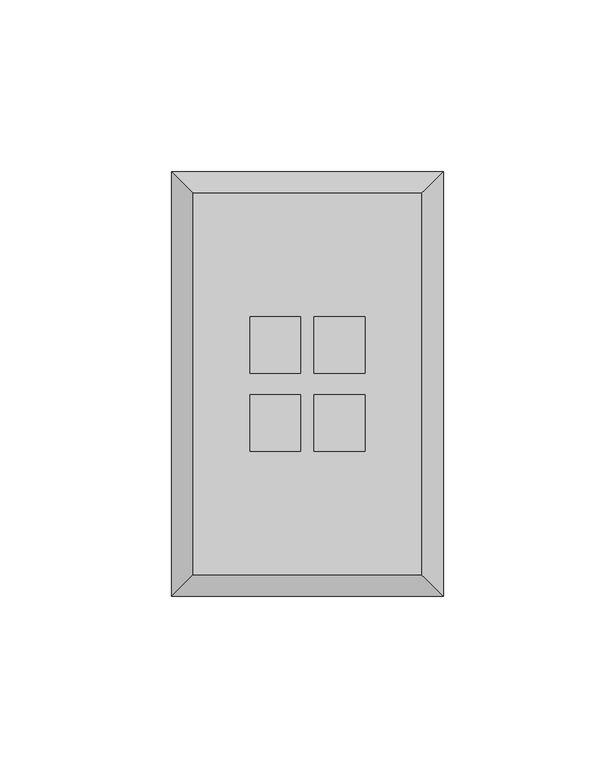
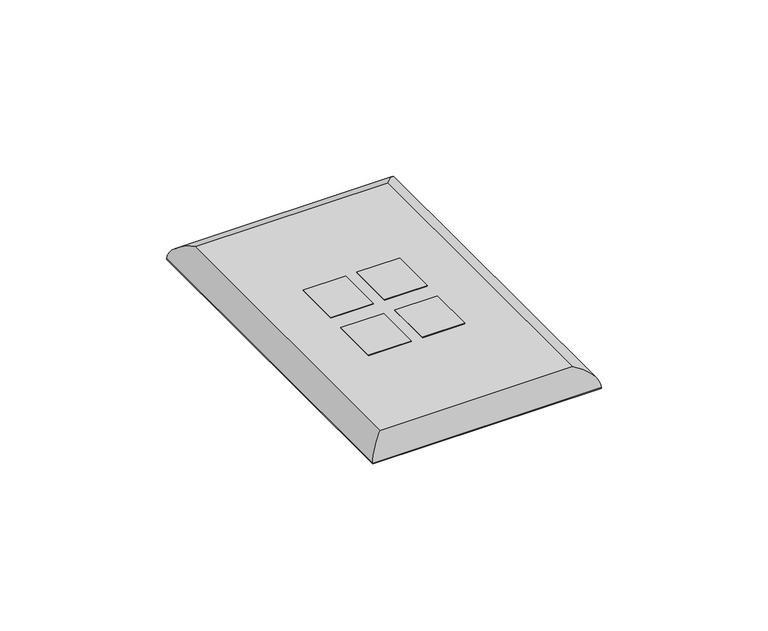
"""IFC4 building model written with IfcOpenShell, lengths in millimetres: electric appliance geometry, Data_Device-Work_Area-Leviton-QuickPort-Wallplate : 4 Ports, Single Gang, Midsize."""

from ifc_helpers import new_model, si_unit, frame, origin, origin_with_axes, place, context, project, spatial, polyline, ellipse_curve, outline, extrude, source, transform, mapped, element, save
from ifc_brep_helpers import plane_surface, cylinder_surface, advanced_brep


def electric_appliance_4bdfb50d(model_context):
    return source(origin(), model_context, "Body", "SolidModel", [
        extrude(outline(polyline([(-24.9936, 27.813), (-24.9936, 11.303), (-39.7256, 11.303), (-39.7256, 27.813), (-24.9936, 27.813)])), origin_with_axes(), (0.0, 0.0, 1.0), 6.35),
        extrude(outline(polyline([(-24.9936, 5.08), (-24.9936, -11.43), (-39.7256, -11.43), (-39.7256, 5.08), (-24.9936, 5.08)])), origin_with_axes(), (0.0, 0.0, 1.0), 6.35),
        extrude(outline(polyline([(-6.3246, 27.813), (-6.3246, 11.303), (-21.0566, 11.303), (-21.0566, 27.813), (-6.3246, 27.813)])), origin_with_axes(), (0.0, 0.0, 1.0), 6.35),
        extrude(outline(polyline([(-6.3246, 5.08), (-6.3246, -11.43), (-21.0566, -11.43), (-21.0566, 5.08), (-6.3246, 5.08)])), origin_with_axes(), (0.0, 0.0, 1.0), 6.35),
        advanced_brep(
        [(10.2489, -47.3075, 6.35), (10.2489, 63.6905, 6.35), (-56.2991, 63.6905, 6.35), (-56.2991, -47.3075, 6.35), (-39.7256, 27.813, 6.35), (-24.9936, 27.813, 6.35), (-24.9936, 11.303, 6.35), (-39.7256, 11.303, 6.35), (-39.7256, 5.08, 6.35), (-24.9936, 5.08, 6.35), (-24.9936, -11.43, 6.35), (-39.7256, -11.43, 6.35), (-21.0566, 27.813, 6.35), (-6.3246, 27.813, 6.35), (-6.3246, 11.303, 6.35), (-21.0566, 11.303, 6.35), (-21.0566, 5.08, 6.35), (-6.3246, 5.08, 6.35), (-6.3246, -11.43, 6.35), (-21.0566, -11.43, 6.35), (16.5989, 70.0405, 0.0), (16.5989, -53.6575, 0.0), (-62.6491, -53.6575, 0.0), (-62.6491, 70.0405, 0.0), (-24.9936, 27.813, 0.0), (-39.7256, 27.813, 0.0), (-39.7256, 11.303, 0.0), (-24.9936, 11.303, 0.0), (-24.9936, 5.08, 0.0), (-39.7256, 5.08, 0.0), (-39.7256, -11.43, 0.0), (-24.9936, -11.43, 0.0), (-6.3246, 27.813, 0.0), (-21.0566, 27.813, 0.0), (-21.0566, 11.303, 0.0), (-6.3246, 11.303, 0.0), (-6.3246, 5.08, 0.0), (-21.0566, 5.08, 0.0), (-21.0566, -11.43, 0.0), (-6.3246, -11.43, 0.0), (-62.6491, 70.0405, 0.254), (16.5989, 70.0405, 0.254), (-62.6491, -53.6575, 0.254), (16.5989, -53.6575, 0.254)],
        [
            (0, 1),
            (1, 2),
            (2, 3),
            (3, 0),
            (4, 5),
            (5, 6),
            (6, 7),
            (7, 4),
            (8, 9),
            (9, 10),
            (10, 11),
            (11, 8),
            (12, 13),
            (13, 14),
            (14, 15),
            (15, 12),
            (16, 17),
            (17, 18),
            (18, 19),
            (19, 16),
            (20, 21),
            (21, 22),
            (22, 23),
            (23, 20),
            (24, 25),
            (25, 26),
            (26, 27),
            (27, 24),
            (28, 29),
            (29, 30),
            (30, 31),
            (31, 28),
            (32, 33),
            (33, 34),
            (34, 35),
            (35, 32),
            (36, 37),
            (37, 38),
            (38, 39),
            (39, 36),
            (23, 40),
            (40, 41),
            (41, 20),
            (22, 42),
            (42, 40),
            (21, 43),
            (43, 42),
            (41, 43),
            (4, 25),
            (24, 5),
            (7, 26),
            (6, 27),
            (8, 29),
            (28, 9),
            (11, 30),
            (10, 31),
            (12, 33),
            (32, 13),
            (15, 34),
            (14, 35),
            (16, 37),
            (36, 17),
            (19, 38),
            (18, 39),
            (0, 43, ellipse_curve(frame((10.2489, -47.3075, -0.0052917), z_axis=(0.7071067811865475, 0.7071067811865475, 0.0), x_axis=(0.7071067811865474, -0.7071067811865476, 0.0)), 8.9877397, 6.3552917)),
            (41, 1, ellipse_curve(frame((10.2489, 63.6905, -0.0052917), z_axis=(0.7071067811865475, -0.7071067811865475, 0.0), x_axis=(-0.7071067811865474, -0.7071067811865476, 0.0)), 8.9877397, 6.3552917)),
            (3, 42, ellipse_curve(frame((-56.2991, -47.3075, -0.0052917), z_axis=(0.7071067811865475, -0.7071067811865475, 0.0), x_axis=(-0.7071067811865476, -0.7071067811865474, 0.0)), 8.9877397, 6.3552917)),
            (2, 40, ellipse_curve(frame((-56.2991, 63.6905, -0.0052917), z_axis=(-0.7071067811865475, -0.7071067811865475, 0.0), x_axis=(-0.7071067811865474, 0.7071067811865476, 0.0)), 8.9877397, 6.3552917)),
        ],
        [
            plane_surface(frame((-62.6491, 70.0405, 6.35), z_axis=(0.0, 0.0, 1.0), x_axis=(-1.0, 0.0, 0.0))),
            plane_surface(frame((-62.6491, 70.0405, 0.0), z_axis=(0.0, 0.0, -1.0), x_axis=(1.0, 0.0, 0.0))),
            plane_surface(frame((16.5989, 70.0405, 6.35), z_axis=(0.0, 1.0, 0.0), x_axis=(0.0, 0.0, -1.0))),
            plane_surface(frame((-62.6491, 70.0405, 6.35), z_axis=(-1.0, 0.0, 0.0), x_axis=(0.0, 0.0, -1.0))),
            plane_surface(frame((-62.6491, -53.6575, 6.35), z_axis=(0.0, -1.0, 0.0), x_axis=(0.0, 0.0, -1.0))),
            plane_surface(frame((16.5989, -53.6575, 6.35), z_axis=(1.0, 0.0, 0.0), x_axis=(0.0, 0.0, -1.0))),
            plane_surface(frame((-24.9936, 27.813, 6.35), z_axis=(0.0, -1.0, 0.0), x_axis=(0.0, 0.0, -1.0))),
            plane_surface(frame((-39.7256, 27.813, 6.35), z_axis=(1.0, 0.0, 0.0), x_axis=(0.0, 0.0, -1.0))),
            plane_surface(frame((-39.7256, 11.303, 6.35), z_axis=(0.0, 1.0, 0.0), x_axis=(0.0, 0.0, -1.0))),
            plane_surface(frame((-24.9936, 11.303, 6.35), z_axis=(-1.0, 0.0, 0.0), x_axis=(0.0, 0.0, -1.0))),
            plane_surface(frame((-24.9936, 5.08, 6.35), z_axis=(0.0, -1.0, 0.0), x_axis=(0.0, 0.0, -1.0))),
            plane_surface(frame((-39.7256, 5.08, 6.35), z_axis=(1.0, 0.0, 0.0), x_axis=(0.0, 0.0, -1.0))),
            plane_surface(frame((-39.7256, -11.43, 6.35), z_axis=(0.0, 1.0, 0.0), x_axis=(0.0, 0.0, -1.0))),
            plane_surface(frame((-24.9936, -11.43, 6.35), z_axis=(-1.0, 0.0, 0.0), x_axis=(0.0, 0.0, -1.0))),
            plane_surface(frame((-6.3246, 27.813, 6.35), z_axis=(0.0, -1.0, 0.0), x_axis=(0.0, 0.0, -1.0))),
            plane_surface(frame((-21.0566, 27.813, 6.35), z_axis=(1.0, 0.0, 0.0), x_axis=(0.0, 0.0, -1.0))),
            plane_surface(frame((-21.0566, 11.303, 6.35), z_axis=(0.0, 1.0, 0.0), x_axis=(0.0, 0.0, -1.0))),
            plane_surface(frame((-6.3246, 11.303, 6.35), z_axis=(-1.0, 0.0, 0.0), x_axis=(0.0, 0.0, -1.0))),
            plane_surface(frame((-6.3246, 5.08, 6.35), z_axis=(0.0, -1.0, 0.0), x_axis=(0.0, 0.0, -1.0))),
            plane_surface(frame((-21.0566, 5.08, 6.35), z_axis=(1.0, 0.0, 0.0), x_axis=(0.0, 0.0, -1.0))),
            plane_surface(frame((-21.0566, -11.43, 6.35), z_axis=(0.0, 1.0, 0.0), x_axis=(0.0, 0.0, -1.0))),
            plane_surface(frame((-6.3246, -11.43, 6.35), z_axis=(-1.0, 0.0, 0.0), x_axis=(0.0, 0.0, -1.0))),
            cylinder_surface(frame((10.2489, 70.0405, -0.0052917), z_axis=(0.0, -1.0, 0.0), x_axis=(1.0, 0.0, 0.0)), 6.3552917),
            cylinder_surface(frame((16.5989, -47.3075, -0.0052917), z_axis=(-1.0, 0.0, 0.0), x_axis=(0.0, -1.0, 0.0)), 6.3552917),
            cylinder_surface(frame((-56.2991, -53.6575, -0.0052917), z_axis=(0.0, 1.0, 0.0), x_axis=(-1.0, 0.0, 0.0)), 6.3552917),
            cylinder_surface(frame((-62.6491, 63.6905, -0.0052917), z_axis=(1.0, 0.0, 0.0), x_axis=(0.0, 1.0, 0.0)), 6.3552917),
        ],
        [
            (0, [[1, 2, 3, 4], [5, 6, 7, 8], [9, 10, 11, 12], [13, 14, 15, 16], [17, 18, 19, 20]]),
            (1, [[21, 22, 23, 24], [25, 26, 27, 28], [29, 30, 31, 32], [33, 34, 35, 36], [37, 38, 39, 40]]),
            (2, [[-24, 41, 42, 43]]),
            (3, [[-23, 44, 45, -41]]),
            (4, [[-22, 46, 47, -44]]),
            (5, [[-21, -43, 48, -46]]),
            (6, [[49, -25, 50, -5]]),
            (7, [[-49, -8, 51, -26]]),
            (8, [[-51, -7, 52, -27]]),
            (9, [[-50, -28, -52, -6]]),
            (10, [[53, -29, 54, -9]]),
            (11, [[-53, -12, 55, -30]]),
            (12, [[-55, -11, 56, -31]]),
            (13, [[-54, -32, -56, -10]]),
            (14, [[57, -33, 58, -13]]),
            (15, [[-57, -16, 59, -34]]),
            (16, [[-59, -15, 60, -35]]),
            (17, [[-58, -36, -60, -14]]),
            (18, [[61, -37, 62, -17]]),
            (19, [[-61, -20, 63, -38]]),
            (20, [[-63, -19, 64, -39]]),
            (21, [[-62, -40, -64, -18]]),
            (22, [[65, -48, 66, -1]]),
            (23, [[-65, -4, 67, -47]]),
            (24, [[-67, -3, 68, -45]]),
            (25, [[-66, -42, -68, -2]]),
        ],
    ),
        extrude(outline(polyline([(16.3449, 69.7865), (16.3449, -53.4035), (-62.3951, -53.4035), (-62.3951, 69.7865), (16.3449, 69.7865)]), holes=[polyline([(-24.9936, 27.813), (-39.7256, 27.813), (-39.7256, 11.303), (-24.9936, 11.303), (-24.9936, 27.813)]), polyline([(-24.9936, 5.08), (-39.7256, 5.08), (-39.7256, -11.43), (-24.9936, -11.43), (-24.9936, 5.08)]), polyline([(-6.3246, 27.813), (-21.0566, 27.813), (-21.0566, 11.303), (-6.3246, 11.303), (-6.3246, 27.813)]), polyline([(-6.3246, 5.08), (-21.0566, 5.08), (-21.0566, -11.43), (-6.3246, -11.43), (-6.3246, 5.08)])]), origin_with_axes(), (0.0, 0.0, 1.0), 0.254),
    ])


if __name__ == "__main__":
    model = new_model("IFC4")
    model_context = context("Model", 3, world=origin())
    ifc_project = project(units=[si_unit("LENGTHUNIT", "METRE", prefix="MILLI")], contexts=[model_context])
    site = spatial("IfcSite", under=ifc_project)
    building = spatial("IfcBuilding", under=site)
    placement = place(None, origin())
    electric_appliance_shape = electric_appliance_4bdfb50d(model_context)
    element("IfcElectricAppliance", 1, ObjectType="Data_Device-Work_Area-Leviton-QuickPort-Wallplate : 4 Ports, Single Gang, Midsize", at=placement, inside=building, context=model_context, shape_type="MappedRepresentation", body=[
        mapped(electric_appliance_shape, transform((0.0, 0.0, 0.0), x_axis=(1.0, 0.0, 0.0), y_axis=(0.0, 1.0, 0.0), z_axis=(0.0, 0.0, 1.0))),
    ])
    save(model, "model.ifc")
